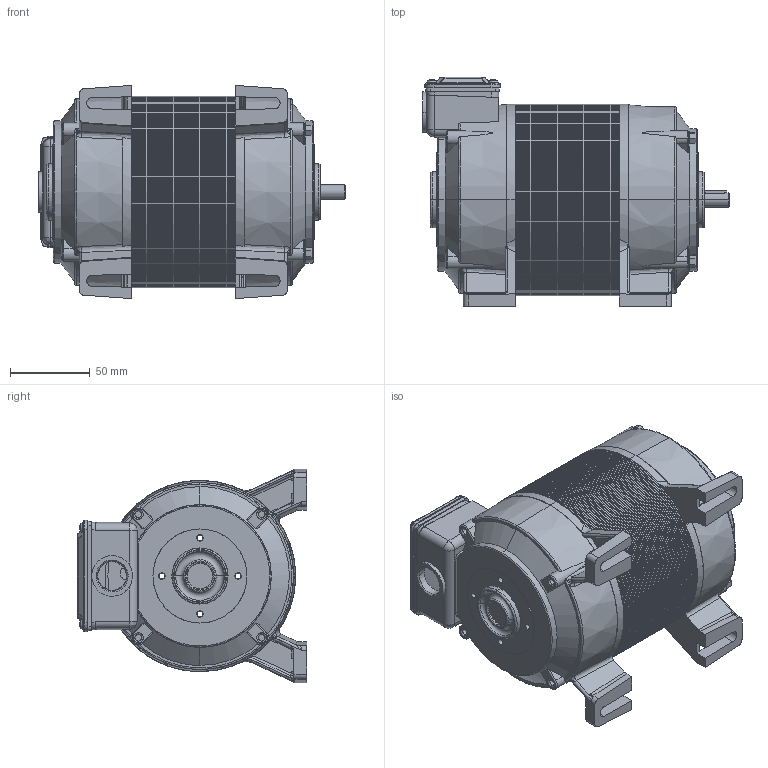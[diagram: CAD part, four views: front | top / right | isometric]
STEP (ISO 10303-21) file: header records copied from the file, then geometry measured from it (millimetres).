
FILE_DESCRIPTION (( 'STEP AP214' ), '1' );
FILE_NAME ('SD48_F.STEP', '2021-08-11T11:07:35', ( '' ), ( '' ), 'SwSTEP 2.0', 'SolidWorks 2020', '' );
FILE_SCHEMA (( 'AUTOMOTIVE_DESIGN' ));
Length unit declared in the file: millimetre
Products named in the file (1): SD48_F
Bounding box: 191.81 x 143.32 x 133.35 mm (x, y, z)
Surface area: 178152.3 mm2 (no closed solid volume)
Topology: 0 solids, 127 shells, 938 faces, 6566 edges, 5619 vertices
Faces by surface type: cylinder 391, plane 200, cone 167, bspline 151, torus 20, sphere 9
Entity records: 98185 total; most frequent: CARTESIAN_POINT 40246, DIRECTION 9892, ORIENTED_EDGE 8571, EDGE_CURVE 6557, VERTEX_POINT 5619, AXIS2_PLACEMENT_3D 3674, CIRCLE 2886, LINE 2544
